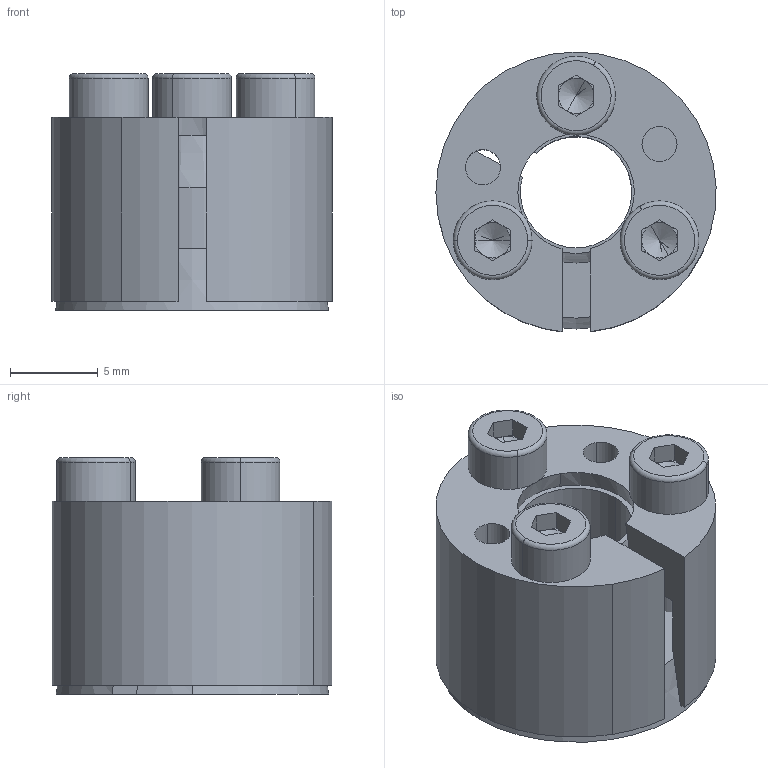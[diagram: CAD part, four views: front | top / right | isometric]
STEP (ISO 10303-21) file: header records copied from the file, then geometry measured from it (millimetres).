
FILE_DESCRIPTION (( 'STEP AP214' ), '1' );
FILE_NAME ('CONEX-K-6.35x16.step', '2013-04-06T13:20:07', ( 'Pc' ), ( '' ), 'SwSTEP 2.0', 'SolidWorks 2013', '' );
FILE_SCHEMA (( 'AUTOMOTIVE_DESIGN' ));
Length unit declared in the file: millimetre
Products named in the file (1): CONEX-K-6.35x16
Bounding box: 15.99 x 15.96 x 13.5 mm (x, y, z)
Volume: 1482.6 mm3; surface area: 2600.2 mm2
Topology: 5 solids, 5 shells, 131 faces, 308 edges, 187 vertices
Faces by surface type: plane 55, cylinder 40, cone 24, torus 12
Entity records: 5269 total; most frequent: DIRECTION 704, CARTESIAN_POINT 645, ORIENTED_EDGE 604, EDGE_CURVE 302, AXIS2_PLACEMENT_3D 278, VERTEX_POINT 187, EDGE_LOOP 153, LINE 148
